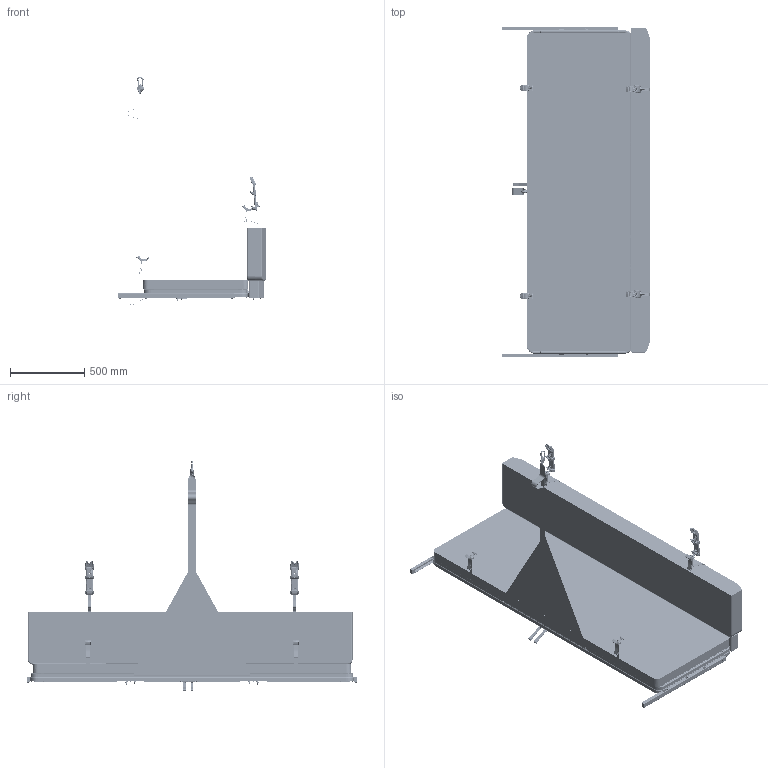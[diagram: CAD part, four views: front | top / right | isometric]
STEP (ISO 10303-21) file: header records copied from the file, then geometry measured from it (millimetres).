
FILE_DESCRIPTION(('CATIA V5 STEP Exchange'),'2;1');
FILE_NAME('E:\工作\张长江\H6-长卧铺数据制作\卧铺数据-1217\SHT0015456-20230202-结构树整理好.stp','2023-02-03T05:30:06+00:00',('none'),('none'),'CATIA Version 5 Release 20 GA (IN-10)','CATIA V5 STEP AP214','none');
FILE_SCHEMA(('AUTOMOTIVE_DESIGN { 1 0 10303 214 1 1 1 1 }'));
Products named in the file (75): SHT0015456; SHT0015459; SHT0015457; SHT0015458; SHT0015460; BFA0010112; BFA0010113; SHT0015462; SHT0015463; SHT0015464; SHT0015461; SHT0015465; SHT0015466; SHT0015468; SHT0015471; SHT0015470; SHT0015469; SHT0015467; SHT0015472; SHT0011541; SHT0015473; SHT0015474; SHT0015475; SHT0015476; SHT0015477; SHT0015480; SHT0015481; SHT0015482; BFA0010097; SHT0015515; SHT0015516; SHT0015517; SHT0015483; SHT0015484; SHT0015485; SHT0015486; SHT0015487; SHT0015488; SHT0015489; SHT0015490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
Assembly tree (169 placements, depth 5):
  SHT0015456
    SHT0015459
      SHT0015457
      SHT0015458
      SHT0015460  x4
      BFA0010112  x4
      BFA0010113  x4
    SHT0015462
      SHT0015463
      SHT0015464
      SHT0015461  x2
    SHT0015465
      SHT0015466
      SHT0015468
        SHT0015471
        SHT0015470  x2
        SHT0015469  x2
      SHT0015467
      SHT0015472  x8
      SHT0011541  x16
      SHT0015473
        SHT0015474
        SHT0015475  x2
        SHT0015476
        SHT0015477
        SHT0015480
        SHT0015481
      SHT0015482  x3
      BFA0010097  x8
      SHT0015481
      SHT0015515  x2
      SHT0015516  x2
      SHT0015517  x2
      SHT0015483  x2
      SHT0015470  x2
    SHT0015484
      SHT0015485
        SHT0015486  x6
        SHT0015487  x2
        SHT0015488  x4
        SHT0015489
        SHT0015490
        SHT0015492  x2
        SHT0015493
        SHT0015494
        SHT0015495
          SHT0015496
          Q37110  x4
        SHT0015498
          SHT0015497
          Q37110  x4
        SHT0015499  x2
      SHT0015500
      SHT0015503  x2
        SHT0015502
        SHT0015501
      SHT0015511  x2
      SHT0015514  x2
      SHT0015491
      SHT0015512
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Bounding box: 994.87 x 2226.6 x 1549.16 mm (x, y, z)
Volume: 237023765.7 mm3; surface area: 17749111.4 mm2
Topology: 266 solids, 318 shells, 30234 faces, 78474 edges, 47467 vertices
Faces by surface type: cylinder 9598, plane 8331, bspline 7569, torus 2329, sphere 1379, cone 736, extrusion 204, revolution 88
Entity records: 815516 total; most frequent: CARTESIAN_POINT 484520, ORIENTED_EDGE 79982, DIRECTION 46640, EDGE_CURVE 40023, VERTEX_POINT 24659, AXIS2_PLACEMENT_3D 19646, EDGE_LOOP 16342, VECTOR 15696
